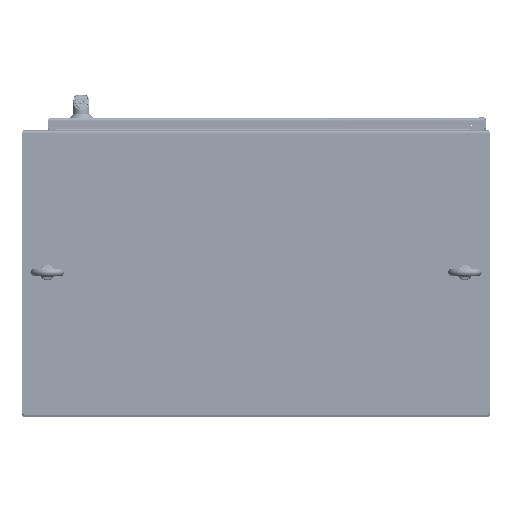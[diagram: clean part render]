
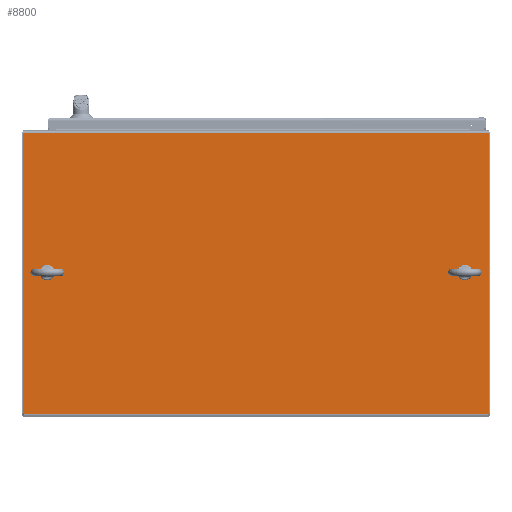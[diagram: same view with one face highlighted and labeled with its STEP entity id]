
A CAD part, top view. The second image highlights one B-rep face of the part: STEP entity #8800.
In plain terms, the highlighted planar face has unit normal (0, 0, 1) as drawn and (0, -1, 0) by its records, which use the part's own axes.
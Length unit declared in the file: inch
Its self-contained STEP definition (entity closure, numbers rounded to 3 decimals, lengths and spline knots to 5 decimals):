
#6760=DIRECTION('',(-1.,0.,0.));
#6761=VECTOR('',#6760,23.625);
#6762=CARTESIAN_POINT('',(-0.25,-0.125,0.));
#6763=LINE('',#6762,#6761);
#6789=DIRECTION('',(0.,0.,-1.));
#6790=VECTOR('',#6789,39.375);
#6791=CARTESIAN_POINT('',(-0.25,-0.125,0.));
#6792=LINE('',#6791,#6790);
#7277=DIRECTION('',(-1.,0.,0.));
#7278=VECTOR('',#7277,23.625);
#7279=CARTESIAN_POINT('',(-0.25,-0.125,-39.375));
#7280=LINE('',#7279,#7278);
#7305=DIRECTION('',(0.,0.,-1.));
#7306=VECTOR('',#7305,39.25);
#7307=CARTESIAN_POINT('',(-23.9375,-0.125,-0.0625));
#7308=LINE('',#7307,#7306);
#7326=CARTESIAN_POINT('',(-23.875,-0.125,-0.0625));
#7327=DIRECTION('',(0.,-1.,0.));
#7328=DIRECTION('',(0.,0.,1.));
#7329=AXIS2_PLACEMENT_3D('',#7326,#7327,#7328);
#7334=CARTESIAN_POINT('',(-23.875,-0.125,-39.3125));
#7335=DIRECTION('',(0.,-1.,0.));
#7336=DIRECTION('',(-1.,0.,0.));
#7337=AXIS2_PLACEMENT_3D('',#7334,#7335,#7336);
#7342=DIRECTION('',(0.,0.,1.));
#7343=VECTOR('',#7342,0.04386);
#7344=CARTESIAN_POINT('',(-12.125,-0.125,-2.4705));
#7345=LINE('',#7344,#7343);
#7349=CARTESIAN_POINT('',(-12.065,-0.125,-2.4705));
#7350=DIRECTION('',(0.,-1.,0.));
#7351=DIRECTION('',(-1.,0.,0.));
#7352=AXIS2_PLACEMENT_3D('',#7349,#7350,#7351);
#7357=DIRECTION('',(-1.,0.,0.));
#7358=VECTOR('',#7357,0.13);
#7359=CARTESIAN_POINT('',(-11.935,-0.125,-2.5305));
#7360=LINE('',#7359,#7358);
#7364=CARTESIAN_POINT('',(-11.935,-0.125,-2.4705));
#7365=DIRECTION('',(0.,-1.,0.));
#7366=DIRECTION('',(0.,0.,-1.));
#7367=AXIS2_PLACEMENT_3D('',#7364,#7365,#7366);
#7372=DIRECTION('',(0.,0.,-1.));
#7373=VECTOR('',#7372,0.04386);
#7374=CARTESIAN_POINT('',(-11.875,-0.125,-2.42664));
#7375=LINE('',#7374,#7373);
#7379=CARTESIAN_POINT('',(-12.,-0.125,-2.0625));
#7380=DIRECTION('',(0.,-1.,0.));
#7381=DIRECTION('',(0.325,0.,-0.946));
#7382=AXIS2_PLACEMENT_3D('',#7379,#7380,#7381);
#7387=DIRECTION('',(0.,0.,-1.));
#7388=VECTOR('',#7387,0.04386);
#7389=CARTESIAN_POINT('',(-11.875,-0.125,-1.6545));
#7390=LINE('',#7389,#7388);
#7394=CARTESIAN_POINT('',(-11.935,-0.125,-1.6545));
#7395=DIRECTION('',(0.,-1.,0.));
#7396=DIRECTION('',(1.,0.,0.));
#7397=AXIS2_PLACEMENT_3D('',#7394,#7395,#7396);
#7402=DIRECTION('',(1.,0.,0.));
#7403=VECTOR('',#7402,0.13);
#7404=CARTESIAN_POINT('',(-12.065,-0.125,-1.5945));
#7405=LINE('',#7404,#7403);
#7409=CARTESIAN_POINT('',(-12.065,-0.125,-1.6545));
#7410=DIRECTION('',(0.,-1.,0.));
#7411=DIRECTION('',(0.,0.,1.));
#7412=AXIS2_PLACEMENT_3D('',#7409,#7410,#7411);
#7417=DIRECTION('',(0.,0.,1.));
#7418=VECTOR('',#7417,0.04386);
#7419=CARTESIAN_POINT('',(-12.125,-0.125,-1.69836));
#7420=LINE('',#7419,#7418);
#7424=CARTESIAN_POINT('',(-12.,-0.125,-2.0625));
#7425=DIRECTION('',(0.,-1.,0.));
#7426=DIRECTION('',(-0.325,0.,0.946));
#7427=AXIS2_PLACEMENT_3D('',#7424,#7425,#7426);
#7432=DIRECTION('',(0.,0.,1.));
#7433=VECTOR('',#7432,0.04386);
#7434=CARTESIAN_POINT('',(-12.125,-0.125,-37.7205));
#7435=LINE('',#7434,#7433);
#7439=CARTESIAN_POINT('',(-12.065,-0.125,-37.7205));
#7440=DIRECTION('',(0.,-1.,0.));
#7441=DIRECTION('',(-1.,0.,0.));
#7442=AXIS2_PLACEMENT_3D('',#7439,#7440,#7441);
#7447=DIRECTION('',(-1.,0.,0.));
#7448=VECTOR('',#7447,0.13);
#7449=CARTESIAN_POINT('',(-11.935,-0.125,-37.7805));
#7450=LINE('',#7449,#7448);
#7454=CARTESIAN_POINT('',(-11.935,-0.125,-37.7205));
#7455=DIRECTION('',(0.,-1.,0.));
#7456=DIRECTION('',(0.,0.,-1.));
#7457=AXIS2_PLACEMENT_3D('',#7454,#7455,#7456);
#7462=DIRECTION('',(0.,0.,-1.));
#7463=VECTOR('',#7462,0.04386);
#7464=CARTESIAN_POINT('',(-11.875,-0.125,-37.67664));
#7465=LINE('',#7464,#7463);
#7469=CARTESIAN_POINT('',(-12.,-0.125,-37.3125));
#7470=DIRECTION('',(0.,-1.,0.));
#7471=DIRECTION('',(0.325,0.,-0.946));
#7472=AXIS2_PLACEMENT_3D('',#7469,#7470,#7471);
#7477=DIRECTION('',(0.,0.,-1.));
#7478=VECTOR('',#7477,0.04386);
#7479=CARTESIAN_POINT('',(-11.875,-0.125,-36.9045));
#7480=LINE('',#7479,#7478);
#7484=CARTESIAN_POINT('',(-11.935,-0.125,-36.9045));
#7485=DIRECTION('',(0.,-1.,0.));
#7486=DIRECTION('',(1.,0.,0.));
#7487=AXIS2_PLACEMENT_3D('',#7484,#7485,#7486);
#7492=DIRECTION('',(1.,0.,0.));
#7493=VECTOR('',#7492,0.13);
#7494=CARTESIAN_POINT('',(-12.065,-0.125,-36.8445));
#7495=LINE('',#7494,#7493);
#7499=CARTESIAN_POINT('',(-12.065,-0.125,-36.9045));
#7500=DIRECTION('',(0.,-1.,0.));
#7501=DIRECTION('',(0.,0.,1.));
#7502=AXIS2_PLACEMENT_3D('',#7499,#7500,#7501);
#7507=DIRECTION('',(0.,0.,1.));
#7508=VECTOR('',#7507,0.04386);
#7509=CARTESIAN_POINT('',(-12.125,-0.125,-36.94836));
#7510=LINE('',#7509,#7508);
#7514=CARTESIAN_POINT('',(-12.,-0.125,-37.3125));
#7515=DIRECTION('',(0.,-1.,0.));
#7516=DIRECTION('',(-0.325,0.,0.946));
#7517=AXIS2_PLACEMENT_3D('',#7514,#7515,#7516);
#7696=CARTESIAN_POINT('',(-0.25,-0.125,-39.375));
#7697=VERTEX_POINT('',#7696);
#7698=CARTESIAN_POINT('',(-0.25,-0.125,0.));
#7699=VERTEX_POINT('',#7698);
#7742=CARTESIAN_POINT('',(-23.875,-0.125,0.));
#7743=VERTEX_POINT('',#7742);
#7744=CARTESIAN_POINT('',(-23.9375,-0.125,-0.0625));
#7745=VERTEX_POINT('',#7744);
#7750=CARTESIAN_POINT('',(-23.9375,-0.125,-39.3125));
#7751=VERTEX_POINT('',#7750);
#7752=CARTESIAN_POINT('',(-23.875,-0.125,-39.375));
#7753=VERTEX_POINT('',#7752);
#7834=CARTESIAN_POINT('',(-12.125,-0.125,-37.7205));
#7835=CARTESIAN_POINT('',(-12.125,-0.125,-37.67664));
#7836=VERTEX_POINT('',#7834);
#7837=VERTEX_POINT('',#7835);
#7838=CARTESIAN_POINT('',(-12.125,-0.125,-36.94836));
#7839=VERTEX_POINT('',#7838);
#7840=CARTESIAN_POINT('',(-12.125,-0.125,-36.9045));
#7841=VERTEX_POINT('',#7840);
#7842=CARTESIAN_POINT('',(-12.065,-0.125,-36.8445));
#7843=VERTEX_POINT('',#7842);
#7844=CARTESIAN_POINT('',(-11.935,-0.125,-36.8445));
#7845=VERTEX_POINT('',#7844);
#7846=CARTESIAN_POINT('',(-11.875,-0.125,-36.9045));
#7847=VERTEX_POINT('',#7846);
#7848=CARTESIAN_POINT('',(-11.875,-0.125,-36.94836));
#7849=VERTEX_POINT('',#7848);
#7850=CARTESIAN_POINT('',(-11.875,-0.125,-37.67664));
#7851=VERTEX_POINT('',#7850);
#7852=CARTESIAN_POINT('',(-11.875,-0.125,-37.7205));
#7853=VERTEX_POINT('',#7852);
#7854=CARTESIAN_POINT('',(-11.935,-0.125,-37.7805));
#7855=VERTEX_POINT('',#7854);
#7856=CARTESIAN_POINT('',(-12.065,-0.125,-37.7805));
#7857=VERTEX_POINT('',#7856);
#7858=CARTESIAN_POINT('',(-12.125,-0.125,-2.4705));
#7859=CARTESIAN_POINT('',(-12.125,-0.125,-2.42664));
#7860=VERTEX_POINT('',#7858);
#7861=VERTEX_POINT('',#7859);
#7862=CARTESIAN_POINT('',(-12.125,-0.125,-1.69836));
#7863=VERTEX_POINT('',#7862);
#7864=CARTESIAN_POINT('',(-12.125,-0.125,-1.6545));
#7865=VERTEX_POINT('',#7864);
#7866=CARTESIAN_POINT('',(-12.065,-0.125,-1.5945));
#7867=VERTEX_POINT('',#7866);
#7868=CARTESIAN_POINT('',(-11.935,-0.125,-1.5945));
#7869=VERTEX_POINT('',#7868);
#7870=CARTESIAN_POINT('',(-11.875,-0.125,-1.6545));
#7871=VERTEX_POINT('',#7870);
#7872=CARTESIAN_POINT('',(-11.875,-0.125,-1.69836));
#7873=VERTEX_POINT('',#7872);
#7874=CARTESIAN_POINT('',(-11.875,-0.125,-2.42664));
#7875=VERTEX_POINT('',#7874);
#7876=CARTESIAN_POINT('',(-11.875,-0.125,-2.4705));
#7877=VERTEX_POINT('',#7876);
#7878=CARTESIAN_POINT('',(-11.935,-0.125,-2.5305));
#7879=VERTEX_POINT('',#7878);
#7880=CARTESIAN_POINT('',(-12.065,-0.125,-2.5305));
#7881=VERTEX_POINT('',#7880);
#8735=CARTESIAN_POINT('',(0.,-0.125,0.));
#8736=DIRECTION('',(0.,1.,0.));
#8737=DIRECTION('',(-1.,0.,0.));
#8738=AXIS2_PLACEMENT_3D('',#8735,#8736,#8737);
#8739=PLANE('',#8738);
#8740=ORIENTED_EDGE('',*,*,#7969,.F.);
#8741=ORIENTED_EDGE('',*,*,#7992,.F.);
#8742=ORIENTED_EDGE('',*,*,#8035,.T.);
#8743=ORIENTED_EDGE('',*,*,#8680,.T.);
#8744=ORIENTED_EDGE('',*,*,#8702,.F.);
#8745=ORIENTED_EDGE('',*,*,#8721,.F.);
#8746=EDGE_LOOP('',(#8740,#8741,#8742,#8743,#8744,#8745));
#8747=FACE_OUTER_BOUND('',#8746,.F.);
#8749=ORIENTED_EDGE('',*,*,#8748,.F.);
#8751=ORIENTED_EDGE('',*,*,#8750,.T.);
#8753=ORIENTED_EDGE('',*,*,#8752,.F.);
#8755=ORIENTED_EDGE('',*,*,#8754,.T.);
#8757=ORIENTED_EDGE('',*,*,#8756,.F.);
#8759=ORIENTED_EDGE('',*,*,#8758,.T.);
#8761=ORIENTED_EDGE('',*,*,#8760,.F.);
#8763=ORIENTED_EDGE('',*,*,#8762,.T.);
#8765=ORIENTED_EDGE('',*,*,#8764,.F.);
#8767=ORIENTED_EDGE('',*,*,#8766,.T.);
#8769=ORIENTED_EDGE('',*,*,#8768,.F.);
#8771=ORIENTED_EDGE('',*,*,#8770,.T.);
#8772=EDGE_LOOP('',(#8749,#8751,#8753,#8755,#8757,#8759,#8761,#8763,#8765,#8767,
#8769,#8771));
#8773=FACE_BOUND('',#8772,.F.);
#8775=ORIENTED_EDGE('',*,*,#8774,.F.);
#8777=ORIENTED_EDGE('',*,*,#8776,.T.);
#8779=ORIENTED_EDGE('',*,*,#8778,.F.);
#8781=ORIENTED_EDGE('',*,*,#8780,.T.);
#8783=ORIENTED_EDGE('',*,*,#8782,.F.);
#8785=ORIENTED_EDGE('',*,*,#8784,.T.);
#8787=ORIENTED_EDGE('',*,*,#8786,.F.);
#8789=ORIENTED_EDGE('',*,*,#8788,.T.);
#8791=ORIENTED_EDGE('',*,*,#8790,.F.);
#8793=ORIENTED_EDGE('',*,*,#8792,.T.);
#8795=ORIENTED_EDGE('',*,*,#8794,.F.);
#8797=ORIENTED_EDGE('',*,*,#8796,.T.);
#8798=EDGE_LOOP('',(#8775,#8777,#8779,#8781,#8783,#8785,#8787,#8789,#8791,#8793,
#8795,#8797));
#8799=FACE_BOUND('',#8798,.F.);
#7330=CIRCLE('',#7329,0.0625);
#7338=CIRCLE('',#7337,0.0625);
#7353=CIRCLE('',#7352,0.06);
#7368=CIRCLE('',#7367,0.06);
#7383=CIRCLE('',#7382,0.385);
#7398=CIRCLE('',#7397,0.06);
#7413=CIRCLE('',#7412,0.06);
#7428=CIRCLE('',#7427,0.385);
#7443=CIRCLE('',#7442,0.06);
#7458=CIRCLE('',#7457,0.06);
#7473=CIRCLE('',#7472,0.385);
#7488=CIRCLE('',#7487,0.06);
#7503=CIRCLE('',#7502,0.06);
#7518=CIRCLE('',#7517,0.385);
#7969=EDGE_CURVE('',#7743,#7745,#7330,.T.);
#7992=EDGE_CURVE('',#7699,#7743,#6763,.T.);
#8035=EDGE_CURVE('',#7699,#7697,#6792,.T.);
#8680=EDGE_CURVE('',#7697,#7753,#7280,.T.);
#8702=EDGE_CURVE('',#7751,#7753,#7338,.T.);
#8721=EDGE_CURVE('',#7745,#7751,#7308,.T.);
#8748=EDGE_CURVE('',#7860,#7861,#7345,.T.);
#8750=EDGE_CURVE('',#7860,#7881,#7353,.T.);
#8752=EDGE_CURVE('',#7879,#7881,#7360,.T.);
#8754=EDGE_CURVE('',#7879,#7877,#7368,.T.);
#8756=EDGE_CURVE('',#7875,#7877,#7375,.T.);
#8758=EDGE_CURVE('',#7875,#7873,#7383,.T.);
#8760=EDGE_CURVE('',#7871,#7873,#7390,.T.);
#8762=EDGE_CURVE('',#7871,#7869,#7398,.T.);
#8764=EDGE_CURVE('',#7867,#7869,#7405,.T.);
#8766=EDGE_CURVE('',#7867,#7865,#7413,.T.);
#8768=EDGE_CURVE('',#7863,#7865,#7420,.T.);
#8770=EDGE_CURVE('',#7863,#7861,#7428,.T.);
#8774=EDGE_CURVE('',#7836,#7837,#7435,.T.);
#8776=EDGE_CURVE('',#7836,#7857,#7443,.T.);
#8778=EDGE_CURVE('',#7855,#7857,#7450,.T.);
#8780=EDGE_CURVE('',#7855,#7853,#7458,.T.);
#8782=EDGE_CURVE('',#7851,#7853,#7465,.T.);
#8784=EDGE_CURVE('',#7851,#7849,#7473,.T.);
#8786=EDGE_CURVE('',#7847,#7849,#7480,.T.);
#8788=EDGE_CURVE('',#7847,#7845,#7488,.T.);
#8790=EDGE_CURVE('',#7843,#7845,#7495,.T.);
#8792=EDGE_CURVE('',#7843,#7841,#7503,.T.);
#8794=EDGE_CURVE('',#7839,#7841,#7510,.T.);
#8796=EDGE_CURVE('',#7839,#7837,#7518,.T.);
#8800=ADVANCED_FACE('',(#8747,#8773,#8799),#8739,.F.);
